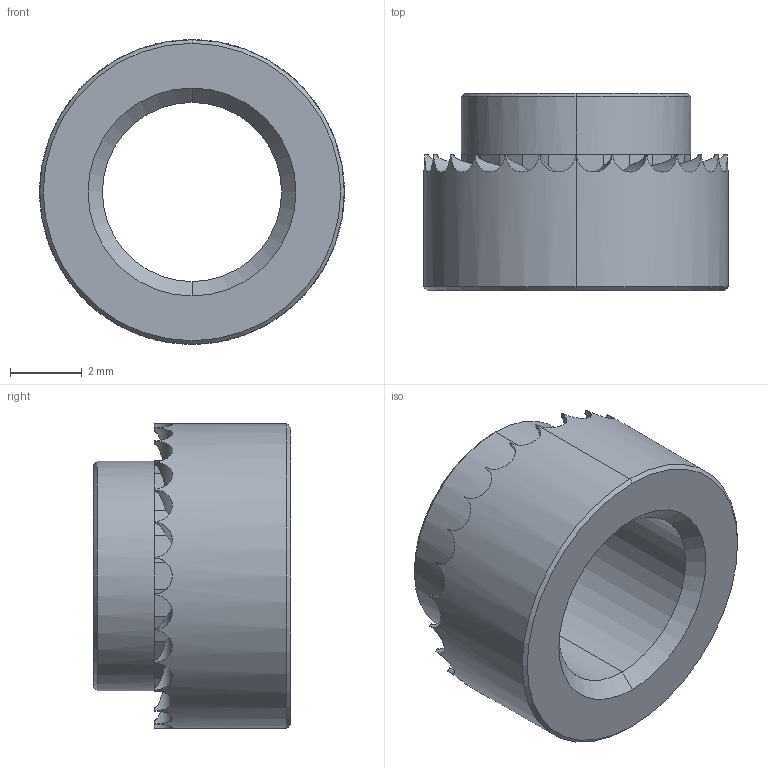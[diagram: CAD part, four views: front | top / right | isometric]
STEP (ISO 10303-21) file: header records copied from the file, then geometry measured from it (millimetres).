
FILE_DESCRIPTION (( 'STEP AP203' ), '1' );
FILE_NAME ('P0829.050-18G-ZP.step', '2019-03-21T22:16:53', ( '' ), ( '' ), 'SwSTEP 2.0', 'SolidWorks 2017', '' );
FILE_SCHEMA (( 'CONFIG_CONTROL_DESIGN' ));
Length unit declared in the file: millimetre
Products named in the file (1): P0829.050-18G-ZP
Bounding box: 8.5 x 5.5 x 8.5 mm (x, y, z)
Volume: 149.3 mm3; surface area: 292.4 mm2
Topology: 1 solids, 1 shells, 120 faces, 294 edges, 176 vertices
Faces by surface type: plane 80, cylinder 32, cone 8
Entity records: 3739 total; most frequent: CARTESIAN_POINT 903, ORIENTED_EDGE 588, DIRECTION 582, EDGE_CURVE 294, AXIS2_PLACEMENT_3D 219, VERTEX_POINT 176, VECTOR 144, LINE 144
